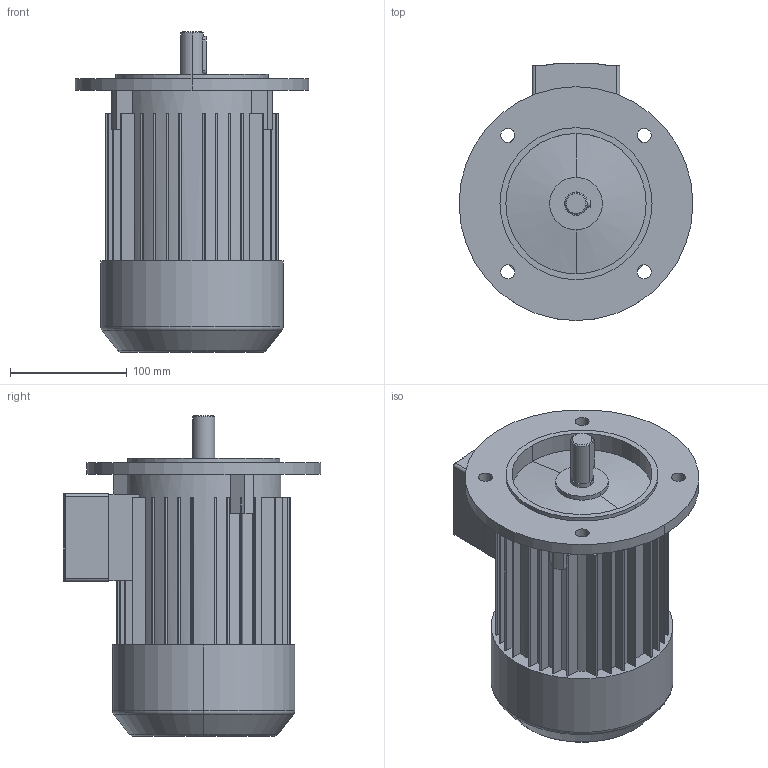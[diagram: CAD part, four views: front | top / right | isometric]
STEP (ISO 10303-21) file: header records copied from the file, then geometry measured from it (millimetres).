
FILE_DESCRIPTION((''),'2;1');
FILE_NAME('1LA7080-2AA11_PRT','2002-04-12T',('martin könig'),(''),'PRO/ENGINEER BY PARAMETRIC TECHNOLOGY CORPORATION, 2002030','PRO/ENGINEER BY PARAMETRIC TECHNOLOGY CORPORATION, 2002030','');
FILE_SCHEMA(('CONFIG_CONTROL_DESIGN'));
Length unit declared in the file: millimetre
Products named in the file (1): 1LA7080-2AA11_PRT
Bounding box: 200 x 220 x 274 mm (x, y, z)
Volume: 4052865.7 mm3; surface area: 263935.5 mm2
Topology: 1 solids, 1 shells, 225 faces, 620 edges, 406 vertices
Faces by surface type: plane 138, cylinder 77, cone 6, torus 4
Entity records: 7285 total; most frequent: DIRECTION 1296, CARTESIAN_POINT 1280, ORIENTED_EDGE 1240, EDGE_CURVE 620, AXIS2_PLACEMENT_3D 453, VERTEX_POINT 406, VECTOR 390, LINE 390
